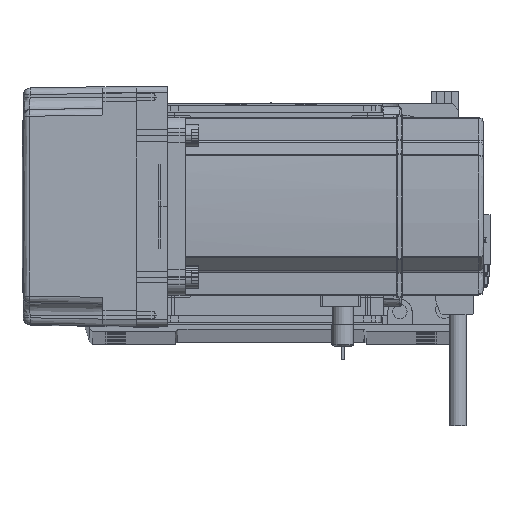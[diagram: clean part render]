
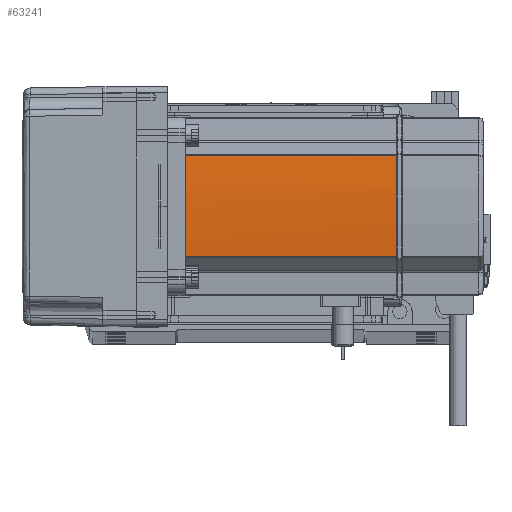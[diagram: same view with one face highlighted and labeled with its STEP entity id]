
A CAD part, top view. The second image highlights one B-rep face of the part: STEP entity #63241.
In plain terms, the highlighted cylindrical face has radius 270 mm (diameter 540 mm), a partial arc.
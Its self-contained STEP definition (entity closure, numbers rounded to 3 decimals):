
#565 = FACE_OUTER_BOUND ( 'NONE', #13441, .T. ) ;
#1134 = DIRECTION ( 'NONE',  ( 0., 0., -1. ) ) ;
#1302 = CARTESIAN_POINT ( 'NONE',  ( 39.042, -22.724, 39. ) ) ;
#1360 = CARTESIAN_POINT ( 'NONE',  ( -230., 0., 39. ) ) ;
#1628 = ORIENTED_EDGE ( 'NONE', *, *, #18641, .F. ) ;
#2736 = ORIENTED_EDGE ( 'NONE', *, *, #25846, .T. ) ;
#2826 = CARTESIAN_POINT ( 'NONE',  ( -230., 0., 134. ) ) ;
#3268 = DIRECTION ( 'NONE',  ( -1., 0., 0. ) ) ;
#7266 = DIRECTION ( 'NONE',  ( -1., 0., 0. ) ) ;
#8473 = VERTEX_POINT ( 'NONE', #1302 ) ;
#10088 = EDGE_CURVE ( 'NONE', #57175, #54275, #13634, .T. ) ;
#11215 = EDGE_CURVE ( 'NONE', #53550, #59314, #45268, .T. ) ;
#13441 = EDGE_LOOP ( 'NONE', ( #16716, #46136, #38883, #2736, #1628, #40571 ) ) ;
#13634 = CIRCLE ( 'NONE', #44434, 270. ) ;
#16716 = ORIENTED_EDGE ( 'NONE', *, *, #18804, .T. ) ;
#18285 = DIRECTION ( 'NONE',  ( 0., 0., -1. ) ) ;
#18641 = EDGE_CURVE ( 'NONE', #57175, #55587, #38259, .T. ) ;
#18804 = EDGE_CURVE ( 'NONE', #54275, #8473, #28772, .T. ) ;
#20499 = CARTESIAN_POINT ( 'NONE',  ( 39.042, 22.724, 134. ) ) ;
#21428 = CIRCLE ( 'NONE', #55767, 270. ) ;
#22482 = CARTESIAN_POINT ( 'NONE',  ( -230., 0., 134. ) ) ;
#25846 = EDGE_CURVE ( 'NONE', #59314, #55587, #21428, .T. ) ;
#28772 = LINE ( 'NONE', #50825, #43382 ) ;
#30170 = CIRCLE ( 'NONE', #31517, 270. ) ;
#31517 = AXIS2_PLACEMENT_3D ( 'NONE', #1360, #1134, #7266 ) ;
#37480 = CARTESIAN_POINT ( 'NONE',  ( 40., -0.042, 134. ) ) ;
#37700 = CARTESIAN_POINT ( 'NONE',  ( 40., 0.042, 134. ) ) ;
#38259 = B_SPLINE_CURVE_WITH_KNOTS ( 'NONE', 3,
 ( #58139, #37480, #37700, #48142 ),
 .UNSPECIFIED., .F., .F.,
 ( 4, 4 ),
 ( 0., 1. ),
 .UNSPECIFIED. ) ;
#38883 = ORIENTED_EDGE ( 'NONE', *, *, #11215, .T. ) ;
#39160 = CARTESIAN_POINT ( 'NONE',  ( 39.042, -22.724, 134. ) ) ;
#40571 = ORIENTED_EDGE ( 'NONE', *, *, #10088, .T. ) ;
#41066 = DIRECTION ( 'NONE',  ( -1., 0., 0. ) ) ;
#43382 = VECTOR ( 'NONE', #45611, 1000. ) ;
#44066 = DIRECTION ( 'NONE',  ( 0., 0., -1. ) ) ;
#44434 = AXIS2_PLACEMENT_3D ( 'NONE', #22482, #44066, #59302 ) ;
#45015 = CARTESIAN_POINT ( 'NONE',  ( 40., -0.127, 134. ) ) ;
#45268 = LINE ( 'NONE', #47836, #48509 ) ;
#45298 = CYLINDRICAL_SURFACE ( 'NONE', #48199, 270. ) ;
#45611 = DIRECTION ( 'NONE',  ( 0., 0., -1. ) ) ;
#46136 = ORIENTED_EDGE ( 'NONE', *, *, #57775, .F. ) ;
#47836 = CARTESIAN_POINT ( 'NONE',  ( 39.042, 22.724, 58. ) ) ;
#48142 = CARTESIAN_POINT ( 'NONE',  ( 40., 0.127, 134. ) ) ;
#48199 = AXIS2_PLACEMENT_3D ( 'NONE', #61945, #56996, #41066 ) ;
#48509 = VECTOR ( 'NONE', #63772, 1000. ) ;
#50825 = CARTESIAN_POINT ( 'NONE',  ( 39.042, -22.724, 58. ) ) ;
#53550 = VERTEX_POINT ( 'NONE', #66324 ) ;
#54275 = VERTEX_POINT ( 'NONE', #39160 ) ;
#55587 = VERTEX_POINT ( 'NONE', #60243 ) ;
#55767 = AXIS2_PLACEMENT_3D ( 'NONE', #2826, #18285, #3268 ) ;
#56996 = DIRECTION ( 'NONE',  ( 0., 0., -1. ) ) ;
#57175 = VERTEX_POINT ( 'NONE', #45015 ) ;
#57775 = EDGE_CURVE ( 'NONE', #53550, #8473, #30170, .T. ) ;
#58139 = CARTESIAN_POINT ( 'NONE',  ( 40., -0.127, 134. ) ) ;
#59302 = DIRECTION ( 'NONE',  ( -1., 0., 0. ) ) ;
#59314 = VERTEX_POINT ( 'NONE', #20499 ) ;
#60243 = CARTESIAN_POINT ( 'NONE',  ( 40., 0.127, 134. ) ) ;
#61945 = CARTESIAN_POINT ( 'NONE',  ( -230., 0., 58. ) ) ;
#63241 = ADVANCED_FACE ( 'NONE', ( #565 ), #45298, .T. ) ;
#63772 = DIRECTION ( 'NONE',  ( 0., 0., 1. ) ) ;
#66324 = CARTESIAN_POINT ( 'NONE',  ( 39.042, 22.724, 39. ) ) ;
